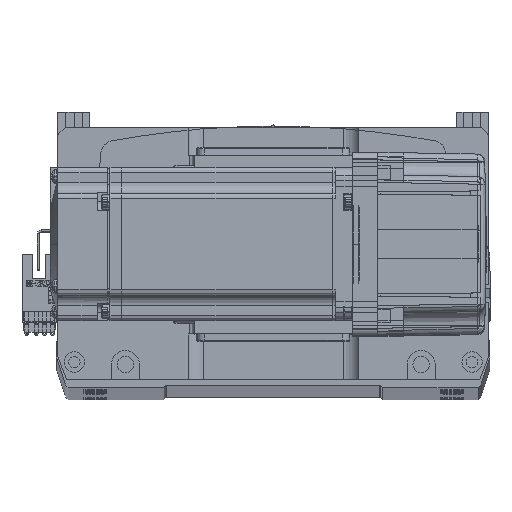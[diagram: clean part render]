
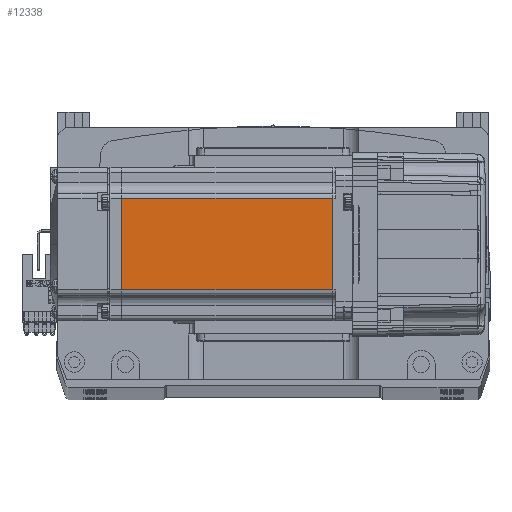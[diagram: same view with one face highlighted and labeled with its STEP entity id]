
A CAD part, top view. The second image highlights one B-rep face of the part: STEP entity #12338.
In plain terms, the highlighted planar face has unit normal (0, 0, 1).
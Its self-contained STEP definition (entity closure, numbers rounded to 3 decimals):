
#1046 = VECTOR ( 'NONE', #45362, 1000. ) ;
#6485 = VERTEX_POINT ( 'NONE', #39504 ) ;
#6987 = CARTESIAN_POINT ( 'NONE',  ( -90.45, 18., 30. ) ) ;
#8889 = CARTESIAN_POINT ( 'NONE',  ( -90.45, -18., 30. ) ) ;
#12338 = ADVANCED_FACE ( 'NONE', ( #16086 ), #50951, .T. ) ;
#14973 = VERTEX_POINT ( 'NONE', #6987 ) ;
#16086 = FACE_OUTER_BOUND ( 'NONE', #17211, .T. ) ;
#17010 = AXIS2_PLACEMENT_3D ( 'NONE', #61601, #18539, #52116 ) ;
#17211 = EDGE_LOOP ( 'NONE', ( #33116, #31157, #17614, #44659 ) ) ;
#17614 = ORIENTED_EDGE ( 'NONE', *, *, #65946, .T. ) ;
#18539 = DIRECTION ( 'NONE',  ( 0., 0., 1. ) ) ;
#18665 = DIRECTION ( 'NONE',  ( -1., 0., 0. ) ) ;
#19951 = VECTOR ( 'NONE', #39138, 1000. ) ;
#23009 = EDGE_CURVE ( 'NONE', #42331, #14973, #50442, .T. ) ;
#25825 = CARTESIAN_POINT ( 'NONE',  ( -7.75, 0., 30. ) ) ;
#26928 = LINE ( 'NONE', #25825, #68395 ) ;
#31157 = ORIENTED_EDGE ( 'NONE', *, *, #23009, .T. ) ;
#32287 = LINE ( 'NONE', #56967, #1046 ) ;
#33116 = ORIENTED_EDGE ( 'NONE', *, *, #49189, .F. ) ;
#38601 = LINE ( 'NONE', #45383, #64014 ) ;
#39138 = DIRECTION ( 'NONE',  ( -1., 0., 0. ) ) ;
#39504 = CARTESIAN_POINT ( 'NONE',  ( -7.75, -18., 30. ) ) ;
#42331 = VERTEX_POINT ( 'NONE', #65604 ) ;
#44659 = ORIENTED_EDGE ( 'NONE', *, *, #55034, .F. ) ;
#45362 = DIRECTION ( 'NONE',  ( 0., -1., 0. ) ) ;
#45383 = CARTESIAN_POINT ( 'NONE',  ( -6.5, -18., 30. ) ) ;
#49189 = EDGE_CURVE ( 'NONE', #42331, #6485, #26928, .T. ) ;
#50442 = LINE ( 'NONE', #55060, #19951 ) ;
#50951 = PLANE ( 'NONE',  #17010 ) ;
#52116 = DIRECTION ( 'NONE',  ( 1., 0., 0. ) ) ;
#52548 = DIRECTION ( 'NONE',  ( 0., -1., 0. ) ) ;
#55034 = EDGE_CURVE ( 'NONE', #6485, #57449, #38601, .T. ) ;
#55060 = CARTESIAN_POINT ( 'NONE',  ( -6.5, 18., 30. ) ) ;
#56967 = CARTESIAN_POINT ( 'NONE',  ( -90.45, 0., 30. ) ) ;
#57449 = VERTEX_POINT ( 'NONE', #8889 ) ;
#61601 = CARTESIAN_POINT ( 'NONE',  ( -6.5, -25., 30. ) ) ;
#64014 = VECTOR ( 'NONE', #18665, 1000. ) ;
#65604 = CARTESIAN_POINT ( 'NONE',  ( -7.75, 18., 30. ) ) ;
#65946 = EDGE_CURVE ( 'NONE', #14973, #57449, #32287, .T. ) ;
#68395 = VECTOR ( 'NONE', #52548, 1000. ) ;
